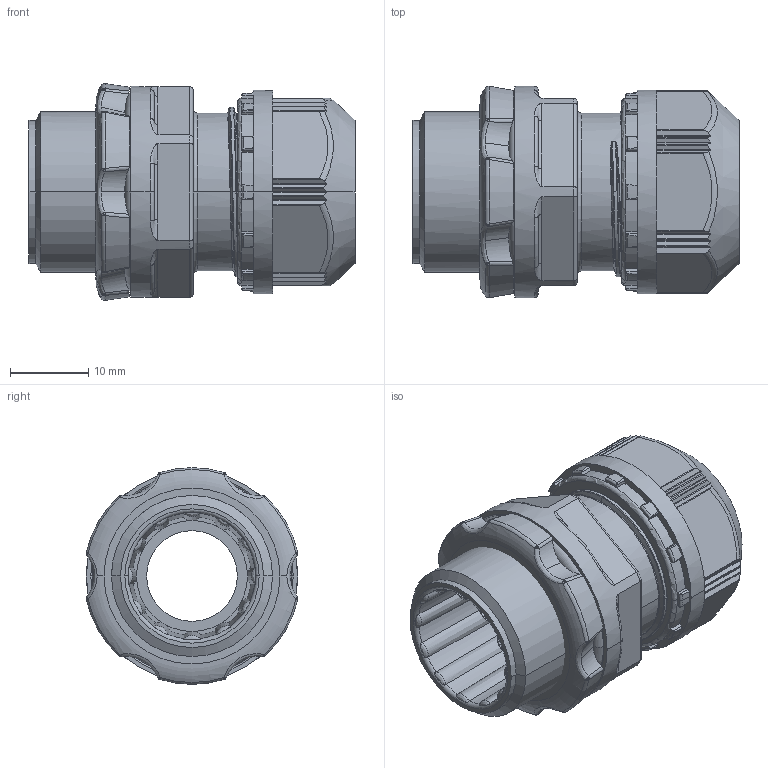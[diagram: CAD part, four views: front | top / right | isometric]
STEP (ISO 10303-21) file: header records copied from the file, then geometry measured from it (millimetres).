
FILE_DESCRIPTION(('CoCreate Modeling STEP Export'),'2;1');
FILE_NAME('H03-0030-CL911_OA-W1611-13L.stp','2011-08-05T10:05:45',(''),(''),'CoCreate Modeling STEP processor for AP214 (Solid Model)','CoCreate Modeling 17.00A 17-Jun-2010 (C) Parametric Technology GmbH','');
FILE_SCHEMA(('AUTOMOTIVE_DESIGN { 1 0 10303 214 1 1 1 1 }'));
Length unit declared in the file: millimetre
Products named in the file (5): OA-W1611-13L; ゴムブッシュ; ロックナット
Assembly tree (2 placements, depth 2):
  OA-W1611-13L
    OA-W1611-13L
  ゴムブッシュ
  ロックナット
    ロックナット
Bounding box: 41.7 x 27.07 x 27.72 mm (x, y, z)
Volume: 12305.2 mm3; surface area: 9623.3 mm2
Topology: 3 solids, 3 shells, 519 faces, 1373 edges, 870 vertices
Faces by surface type: cylinder 162, plane 154, bspline 99, torus 52, cone 40, extrusion 12
Entity records: 40025 total; most frequent: CARTESIAN_POINT 29224, ORIENTED_EDGE 2746, DIRECTION 1393, EDGE_CURVE 1373, VERTEX_POINT 870, B_SPLINE_CURVE_WITH_KNOTS 555, EDGE_LOOP 535, FACE_OUTER_BOUND 519
